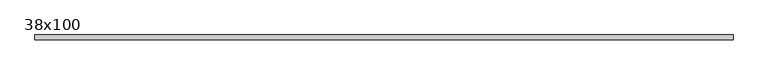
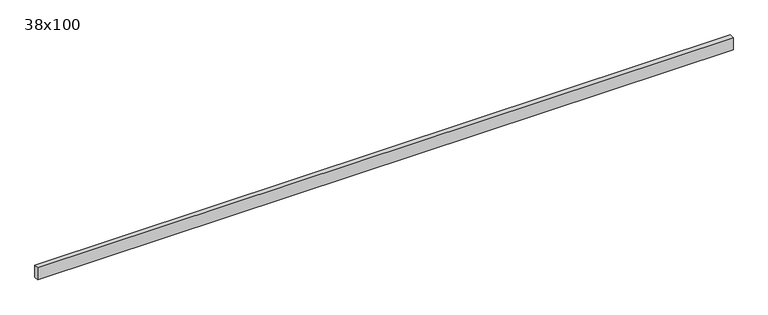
"""IFC4 building model written with IfcOpenShell, lengths in millimetres: beam geometry, Poutre - Bois de construction de dimensions courantes : 38x100."""

from ifc_helpers import new_model, si_unit, frame, origin, place, context, project, spatial, polyline, outline, extrude, source, transform, mapped, element, save


def beam_38x100_5572929d(model_context):
    return source(origin(), model_context, "Body", "SweptSolid", [
        extrude(outline(polyline([(2772.5, 19.05), (2772.5, -19.05), (-2772.5, -19.05), (-2772.5, 19.05), (2772.5, 19.05)])), frame((0.0, 0.0, -50.0), z_axis=(0.0, 0.0, 1.0), x_axis=(1.0, 0.0, 0.0)), (0.0, 0.0, 1.0), 100.0),
    ])


if __name__ == "__main__":
    model = new_model("IFC4")
    model_context = context("Model", 3, world=origin())
    ifc_project = project(units=[si_unit("LENGTHUNIT", "METRE", prefix="MILLI")], contexts=[model_context])
    site = spatial("IfcSite", under=ifc_project)
    building = spatial("IfcBuilding", under=site)
    placement = place(None, origin())
    beam_38x100_shape = beam_38x100_5572929d(model_context)
    element("IfcBeam", 1, ObjectType="Poutre - Bois de construction de dimensions courantes : 38x100", at=placement, inside=building, context=model_context, shape_type="MappedRepresentation", body=[
        mapped(beam_38x100_shape, transform((0.0, 0.0, 0.0), x_axis=(1.0, 0.0, 0.0), y_axis=(0.0, 1.0, 0.0), z_axis=(0.0, 0.0, 1.0))),
    ])
    save(model, "model.ifc")
